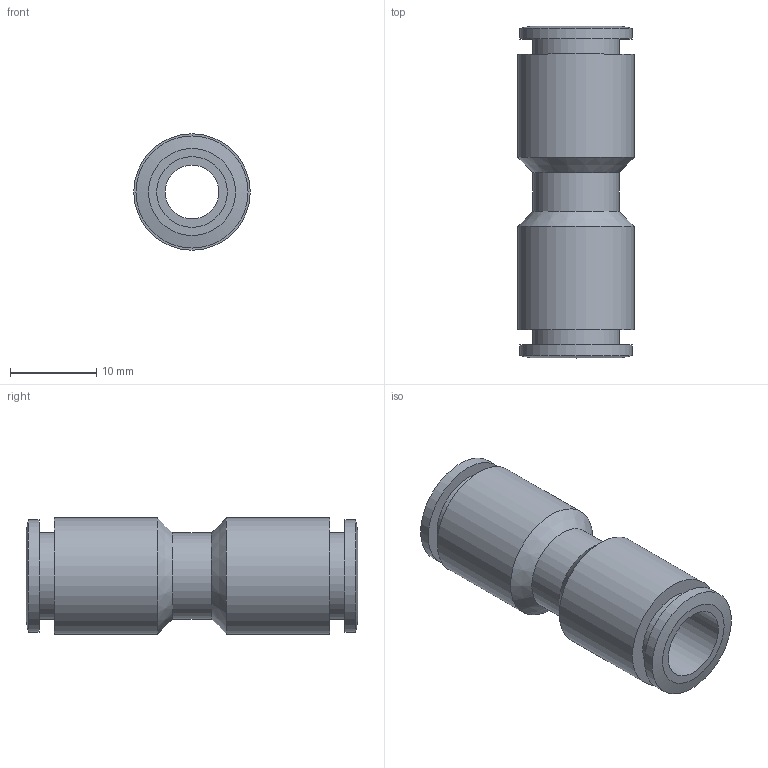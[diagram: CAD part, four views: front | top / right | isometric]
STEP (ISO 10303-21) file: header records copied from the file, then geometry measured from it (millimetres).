
FILE_DESCRIPTION((''),'2;1');
FILE_NAME('C:\Documents and Settings\rivolro1\Documenti\copia di Raccordi\PLASTICA\T03XX00\T030800.stp','2007-10-30T15:29:01',('Rivolro1'),(''),'Autodesk Inventor 2008','Autodesk Inventor 2008','');
FILE_SCHEMA(('AUTOMOTIVE_DESIGN { 1 0 10303 214 1 1 1 1 }'));
Length unit declared in the file: millimetre
Products named in the file (1): T030800
Bounding box: 13.5 x 38.5 x 13.5 mm (x, y, z)
Volume: 2898.6 mm3; surface area: 2957.5 mm2
Topology: 1 solids, 1 shells, 22 faces, 37 edges, 23 vertices
Faces by surface type: cylinder 8, plane 6, bspline 4, cone 4
Full cylindrical faces by diameter (mm): 6.2 x1, 10 x1, 10.1 x2, 13 x2, 13.5 x2
Entity records: 523 total; most frequent: CARTESIAN_POINT 107, DIRECTION 82, ORIENTED_EDGE 44, EDGE_LOOP 44, AXIS2_PLACEMENT_3D 41, VERTEX_POINT 22, CIRCLE 22, EDGE_CURVE 22
